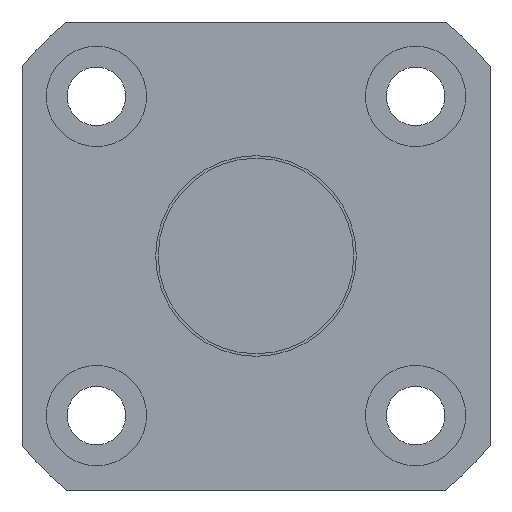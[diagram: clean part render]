
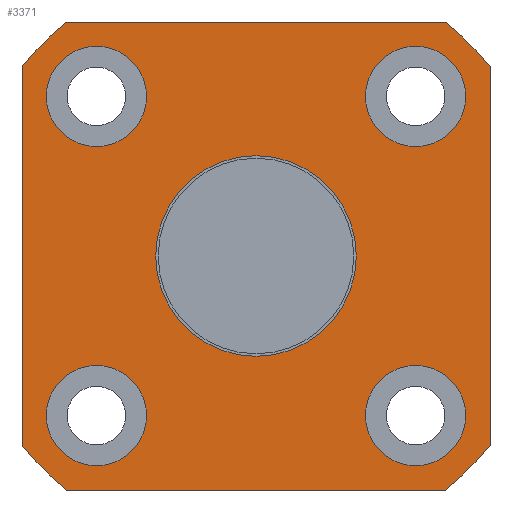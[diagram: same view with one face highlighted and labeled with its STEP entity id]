
A CAD part, left-side view. The second image highlights one B-rep face of the part: STEP entity #3371.
In plain terms, the highlighted planar face has unit normal (-1, 0, 0).
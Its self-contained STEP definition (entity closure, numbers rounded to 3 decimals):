
#479=CARTESIAN_POINT('',(110.814,12.546,-9.546));
#480=VERTEX_POINT('',#479);
#481=CARTESIAN_POINT('',(110.814,9.546,-9.546));
#482=DIRECTION('',(1.0,0.0,0.0));
#483=DIRECTION('',(0.0,1.0,0.0));
#484=AXIS2_PLACEMENT_3D('',#481,#482,#483);
#485=CIRCLE('',#484,3.);
#486=EDGE_CURVE('',#480,#480,#485,.T.);
#547=CARTESIAN_POINT('',(110.814,-6.546,9.546));
#548=VERTEX_POINT('',#547);
#549=CARTESIAN_POINT('',(110.814,-9.546,9.546));
#550=DIRECTION('',(1.0,0.0,0.0));
#551=DIRECTION('',(0.0,1.0,0.0));
#552=AXIS2_PLACEMENT_3D('',#549,#550,#551);
#553=CIRCLE('',#552,3.);
#554=EDGE_CURVE('',#548,#548,#553,.T.);
#615=CARTESIAN_POINT('',(110.814,12.546,9.546));
#616=VERTEX_POINT('',#615);
#617=CARTESIAN_POINT('',(110.814,9.546,9.546));
#618=DIRECTION('',(1.0,0.0,0.0));
#619=DIRECTION('',(0.0,1.0,0.0));
#620=AXIS2_PLACEMENT_3D('',#617,#618,#619);
#621=CIRCLE('',#620,3.);
#622=EDGE_CURVE('',#616,#616,#621,.T.);
#683=CARTESIAN_POINT('',(110.814,-6.546,-9.546));
#684=VERTEX_POINT('',#683);
#685=CARTESIAN_POINT('',(110.814,-9.546,-9.546));
#686=DIRECTION('',(1.0,0.0,0.0));
#687=DIRECTION('',(0.0,1.0,0.0));
#688=AXIS2_PLACEMENT_3D('',#685,#686,#687);
#689=CIRCLE('',#688,3.);
#690=EDGE_CURVE('',#684,#684,#689,.T.);
#3103=CARTESIAN_POINT('',(110.814,-14.,-11.314));
#3104=VERTEX_POINT('',#3103);
#3111=CARTESIAN_POINT('',(110.814,-11.314,-14.));
#3112=VERTEX_POINT('',#3111);
#3113=CARTESIAN_POINT('',(110.814,0.0,0.0));
#3114=DIRECTION('',(1.0,0.0,0.0));
#3115=DIRECTION('',(0.0,1.0,0.0));
#3116=AXIS2_PLACEMENT_3D('',#3113,#3114,#3115);
#3117=CIRCLE('',#3116,18.0);
#3118=EDGE_CURVE('',#3104,#3112,#3117,.T.);
#3135=CARTESIAN_POINT('',(110.814,-14.,11.314));
#3136=VERTEX_POINT('',#3135);
#3143=CARTESIAN_POINT('',(110.814,-14.,11.314));
#3144=DIRECTION('',(0.0,0.0,-1.0));
#3145=VECTOR('',#3144,22.627);
#3146=LINE('',#3143,#3145);
#3147=EDGE_CURVE('',#3136,#3104,#3146,.T.);
#3159=CARTESIAN_POINT('',(110.814,-11.314,14.));
#3160=VERTEX_POINT('',#3159);
#3167=CARTESIAN_POINT('',(110.814,0.0,0.0));
#3168=DIRECTION('',(1.0,0.0,0.0));
#3169=DIRECTION('',(0.0,1.0,0.0));
#3170=AXIS2_PLACEMENT_3D('',#3167,#3168,#3169);
#3171=CIRCLE('',#3170,18.0);
#3172=EDGE_CURVE('',#3160,#3136,#3171,.T.);
#3184=CARTESIAN_POINT('',(110.814,11.314,14.));
#3185=VERTEX_POINT('',#3184);
#3192=CARTESIAN_POINT('',(110.814,11.314,14.));
#3193=DIRECTION('',(0.0,-1.0,0.0));
#3194=VECTOR('',#3193,22.627);
#3195=LINE('',#3192,#3194);
#3196=EDGE_CURVE('',#3185,#3160,#3195,.T.);
#3208=CARTESIAN_POINT('',(110.814,14.,11.314));
#3209=VERTEX_POINT('',#3208);
#3216=CARTESIAN_POINT('',(110.814,0.0,0.0));
#3217=DIRECTION('',(1.0,0.0,0.0));
#3218=DIRECTION('',(0.0,1.0,0.0));
#3219=AXIS2_PLACEMENT_3D('',#3216,#3217,#3218);
#3220=CIRCLE('',#3219,18.0);
#3221=EDGE_CURVE('',#3209,#3185,#3220,.T.);
#3233=CARTESIAN_POINT('',(110.814,14.,-11.314));
#3234=VERTEX_POINT('',#3233);
#3241=CARTESIAN_POINT('',(110.814,14.,-11.314));
#3242=DIRECTION('',(0.0,0.0,1.0));
#3243=VECTOR('',#3242,22.627);
#3244=LINE('',#3241,#3243);
#3245=EDGE_CURVE('',#3234,#3209,#3244,.T.);
#3257=CARTESIAN_POINT('',(110.814,11.314,-14.));
#3258=VERTEX_POINT('',#3257);
#3265=CARTESIAN_POINT('',(110.814,0.0,0.0));
#3266=DIRECTION('',(1.0,0.0,0.0));
#3267=DIRECTION('',(0.0,1.0,0.0));
#3268=AXIS2_PLACEMENT_3D('',#3265,#3266,#3267);
#3269=CIRCLE('',#3268,18.0);
#3270=EDGE_CURVE('',#3258,#3234,#3269,.T.);
#3283=CARTESIAN_POINT('',(110.814,-11.314,-14.));
#3284=DIRECTION('',(0.0,1.0,0.0));
#3285=VECTOR('',#3284,22.627);
#3286=LINE('',#3283,#3285);
#3287=EDGE_CURVE('',#3112,#3258,#3286,.T.);
#3298=CARTESIAN_POINT('',(110.814,5.0,0.0));
#3299=VERTEX_POINT('',#3298);
#3300=CARTESIAN_POINT('',(110.814,0.0,0.0));
#3301=DIRECTION('',(1.0,0.0,0.0));
#3302=DIRECTION('',(0.0,1.0,0.0));
#3303=AXIS2_PLACEMENT_3D('',#3300,#3301,#3302);
#3304=CIRCLE('',#3303,5.0);
#3305=EDGE_CURVE('',#3299,#3299,#3304,.T.);
#3341=CARTESIAN_POINT('',(110.814,7.5,0.0));
#3342=DIRECTION('',(-1.0,0.0,0.0));
#3343=DIRECTION('',(0.0,0.0,1.0));
#3344=AXIS2_PLACEMENT_3D('',#3341,#3342,#3343);
#3345=PLANE('',#3344);
#3346=ORIENTED_EDGE('',*,*,#3196,.F.);
#3347=ORIENTED_EDGE('',*,*,#3221,.F.);
#3348=ORIENTED_EDGE('',*,*,#3245,.F.);
#3349=ORIENTED_EDGE('',*,*,#3270,.F.);
#3350=ORIENTED_EDGE('',*,*,#3287,.F.);
#3351=ORIENTED_EDGE('',*,*,#3118,.F.);
#3352=ORIENTED_EDGE('',*,*,#3147,.F.);
#3353=ORIENTED_EDGE('',*,*,#3172,.F.);
#3354=EDGE_LOOP('',(#3346,#3347,#3348,#3349,#3350,#3351,#3352,#3353));
#3355=FACE_OUTER_BOUND('',#3354,.T.);
#3356=ORIENTED_EDGE('',*,*,#486,.T.);
#3357=EDGE_LOOP('',(#3356));
#3358=FACE_BOUND('',#3357,.T.);
#3359=ORIENTED_EDGE('',*,*,#554,.T.);
#3360=EDGE_LOOP('',(#3359));
#3361=FACE_BOUND('',#3360,.T.);
#3362=ORIENTED_EDGE('',*,*,#622,.T.);
#3363=EDGE_LOOP('',(#3362));
#3364=FACE_BOUND('',#3363,.T.);
#3365=ORIENTED_EDGE('',*,*,#690,.T.);
#3366=EDGE_LOOP('',(#3365));
#3367=FACE_BOUND('',#3366,.T.);
#3368=ORIENTED_EDGE('',*,*,#3305,.T.);
#3369=EDGE_LOOP('',(#3368));
#3370=FACE_BOUND('',#3369,.T.);
#3371=ADVANCED_FACE('',(#3355,#3358,#3361,#3364,#3367,#3370),#3345,.T.);
